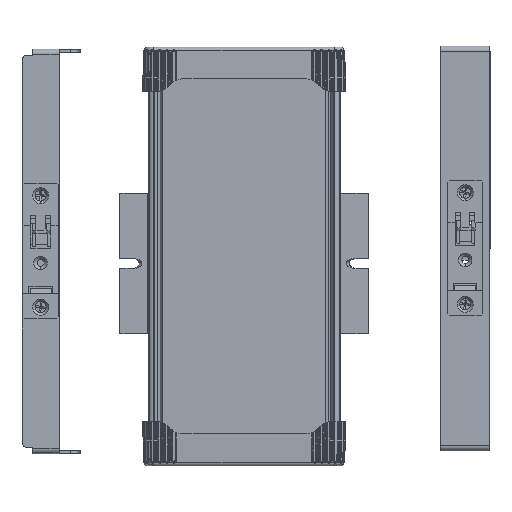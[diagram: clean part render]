
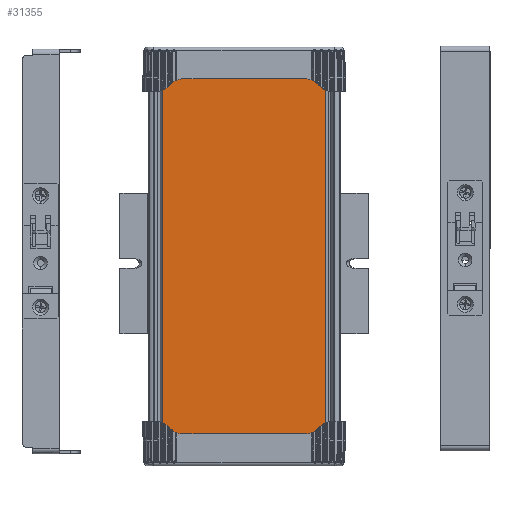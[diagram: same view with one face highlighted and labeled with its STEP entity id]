
A CAD part, front view. The second image highlights one B-rep face of the part: STEP entity #31355.
In plain terms, the highlighted planar face has unit normal (0, -1, 0).
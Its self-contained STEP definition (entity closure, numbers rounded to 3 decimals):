
#1988 = DIRECTION ( 'NONE',  ( 0., 1., 0. ) ) ;
#2372 = CARTESIAN_POINT ( 'NONE',  ( 45.9, -22.5, 110.25 ) ) ;
#3381 = ORIENTED_EDGE ( 'NONE', *, *, #45838, .T. ) ;
#5597 = EDGE_CURVE ( 'NONE', #49606, #30701, #68843, .T. ) ;
#11182 = CARTESIAN_POINT ( 'NONE',  ( 45.9, -22.5, -110.25 ) ) ;
#11724 = CARTESIAN_POINT ( 'NONE',  ( -45.9, -22.5, 110.25 ) ) ;
#11871 = VECTOR ( 'NONE', #31528, 1000. ) ;
#14151 = VERTEX_POINT ( 'NONE', #53333 ) ;
#14691 = CARTESIAN_POINT ( 'NONE',  ( 45.9, -22.5, 110.25 ) ) ;
#21745 = DIRECTION ( 'NONE',  ( 0., 0., -1. ) ) ;
#23110 = DIRECTION ( 'NONE',  ( 1., 0., 0. ) ) ;
#25997 = VECTOR ( 'NONE', #77063, 1000. ) ;
#26031 = EDGE_CURVE ( 'NONE', #14151, #26602, #46791, .T. ) ;
#26602 = VERTEX_POINT ( 'NONE', #14691 ) ;
#28080 = LINE ( 'NONE', #51387, #60376 ) ;
#28384 = AXIS2_PLACEMENT_3D ( 'NONE', #2372, #1988, #50978 ) ;
#29588 = VECTOR ( 'NONE', #23110, 1000. ) ;
#30701 = VERTEX_POINT ( 'NONE', #11182 ) ;
#31355 = ADVANCED_FACE ( 'NONE', ( #61590 ), #49402, .F. ) ;
#31528 = DIRECTION ( 'NONE',  ( 0., 0., -1. ) ) ;
#45838 = EDGE_CURVE ( 'NONE', #14151, #49606, #66965, .T. ) ;
#46791 = LINE ( 'NONE', #77126, #29588 ) ;
#49402 = PLANE ( 'NONE',  #28384 ) ;
#49606 = VERTEX_POINT ( 'NONE', #73294 ) ;
#50978 = DIRECTION ( 'NONE',  ( -1., 0., 0. ) ) ;
#51387 = CARTESIAN_POINT ( 'NONE',  ( 45.9, -22.5, 110.25 ) ) ;
#53333 = CARTESIAN_POINT ( 'NONE',  ( -45.9, -22.5, 110.25 ) ) ;
#60376 = VECTOR ( 'NONE', #21745, 1000. ) ;
#60703 = EDGE_CURVE ( 'NONE', #26602, #30701, #28080, .T. ) ;
#61590 = FACE_OUTER_BOUND ( 'NONE', #74665, .T. ) ;
#62939 = CARTESIAN_POINT ( 'NONE',  ( 45.9, -22.5, -110.25 ) ) ;
#65430 = ORIENTED_EDGE ( 'NONE', *, *, #60703, .F. ) ;
#66965 = LINE ( 'NONE', #11724, #11871 ) ;
#68843 = LINE ( 'NONE', #62939, #25997 ) ;
#72449 = ORIENTED_EDGE ( 'NONE', *, *, #5597, .T. ) ;
#73294 = CARTESIAN_POINT ( 'NONE',  ( -45.9, -22.5, -110.25 ) ) ;
#74665 = EDGE_LOOP ( 'NONE', ( #72449, #65430, #76352, #3381 ) ) ;
#76352 = ORIENTED_EDGE ( 'NONE', *, *, #26031, .F. ) ;
#77063 = DIRECTION ( 'NONE',  ( 1., 0., 0. ) ) ;
#77126 = CARTESIAN_POINT ( 'NONE',  ( 45.9, -22.5, 110.25 ) ) ;
